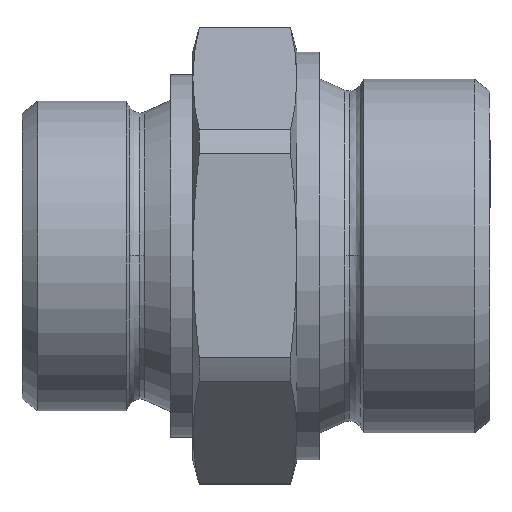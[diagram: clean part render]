
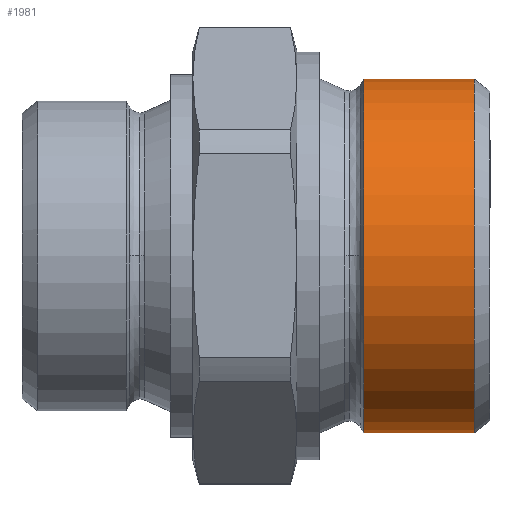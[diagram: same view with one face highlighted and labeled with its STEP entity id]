
A CAD part, top view. The second image highlights one B-rep face of the part: STEP entity #1981.
In plain terms, the highlighted cylindrical face has radius 23.81 mm (diameter 47.62 mm), a partial arc.
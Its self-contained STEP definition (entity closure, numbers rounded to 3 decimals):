
#589=CARTESIAN_POINT('',(0.,23.81,-30.863));
#590=VERTEX_POINT('',#589);
#591=CARTESIAN_POINT('',(0.,23.81,-15.984));
#592=VERTEX_POINT('',#591);
#593=CARTESIAN_POINT('',(0.,23.81,-30.863));
#594=DIRECTION('',(0.0,0.0,1.0));
#595=VECTOR('',#594,14.88);
#596=LINE('',#593,#595);
#597=EDGE_CURVE('',#590,#592,#596,.T.);
#599=CARTESIAN_POINT('',(0.,-23.81,-30.863));
#600=VERTEX_POINT('',#599);
#608=CARTESIAN_POINT('',(0.,-23.81,-15.984));
#609=VERTEX_POINT('',#608);
#610=CARTESIAN_POINT('',(0.,-23.81,-15.984));
#611=DIRECTION('',(0.0,0.0,-1.0));
#612=VECTOR('',#611,14.88);
#613=LINE('',#610,#612);
#614=EDGE_CURVE('',#609,#600,#613,.T.);
#1779=CARTESIAN_POINT('',(0.,0.,-15.984));
#1780=DIRECTION('',(0.0,0.0,1.0));
#1781=DIRECTION('',(0.0,1.0,0.0));
#1782=AXIS2_PLACEMENT_3D('',#1779,#1780,#1781);
#1783=CIRCLE('',#1782,23.81);
#1784=EDGE_CURVE('',#609,#592,#1783,.T.);
#1958=CARTESIAN_POINT('',(0.,0.,-30.863));
#1959=DIRECTION('',(0.0,0.0,1.0));
#1960=DIRECTION('',(0.0,1.0,0.0));
#1961=AXIS2_PLACEMENT_3D('',#1958,#1959,#1960);
#1962=CIRCLE('',#1961,23.81);
#1963=EDGE_CURVE('',#600,#590,#1962,.T.);
#1970=CARTESIAN_POINT('',(0.,0.,-23.424));
#1971=DIRECTION('',(0.,0.,1.0));
#1972=DIRECTION('',(0.0,1.0,0.0));
#1973=AXIS2_PLACEMENT_3D('',#1970,#1971,#1972);
#1974=CYLINDRICAL_SURFACE('',#1973,23.81);
#1975=ORIENTED_EDGE('',*,*,#597,.T.);
#1976=ORIENTED_EDGE('',*,*,#1784,.F.);
#1977=ORIENTED_EDGE('',*,*,#614,.T.);
#1978=ORIENTED_EDGE('',*,*,#1963,.T.);
#1979=EDGE_LOOP('',(#1975,#1976,#1977,#1978));
#1980=FACE_OUTER_BOUND('',#1979,.T.);
#1981=ADVANCED_FACE('',(#1980),#1974,.T.);
